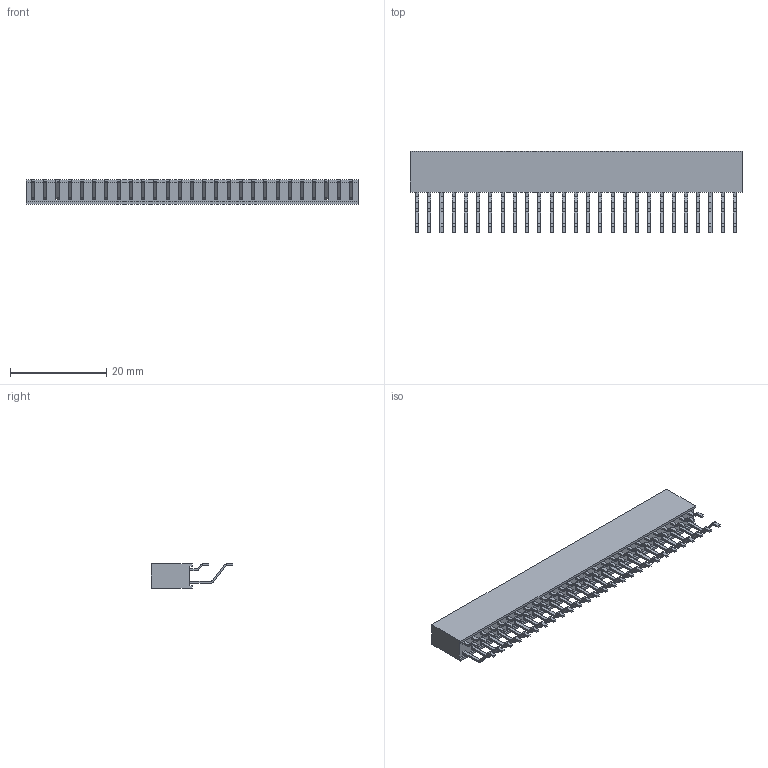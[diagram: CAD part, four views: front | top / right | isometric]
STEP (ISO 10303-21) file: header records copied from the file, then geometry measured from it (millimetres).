
FILE_DESCRIPTION (( 'STEP AP203' ), '1' );
FILE_NAME ('PM254-2-27-WS-8.5(2.54邧齬 拏泂 齬譫-HCTL).STEP', '2026-04-23T03:39:40', ( '' ), ( '' ), 'SwSTEP 2.0', 'SolidWorks 2025', '' );
FILE_SCHEMA (( 'CONFIG_CONTROL_DESIGN' ));
Length unit declared in the file: millimetre
Products named in the file (1): PM254-2-27-WS-8.5(2.54双排 卧贴 排母-HCTL)
Bounding box: 68.98 x 16.9 x 5 mm (x, y, z)
Volume: 2753.6 mm3; surface area: 4047.1 mm2
Topology: 1 solids, 1 shells, 1198 faces, 3480 edges, 2176 vertices
Faces by surface type: plane 982, cylinder 216
Entity records: 39029 total; most frequent: ORIENTED_EDGE 6960, CARTESIAN_POINT 6855, DIRECTION 6310, EDGE_CURVE 3480, LINE 3048, VECTOR 3048, VERTEX_POINT 2176, AXIS2_PLACEMENT_3D 1631
